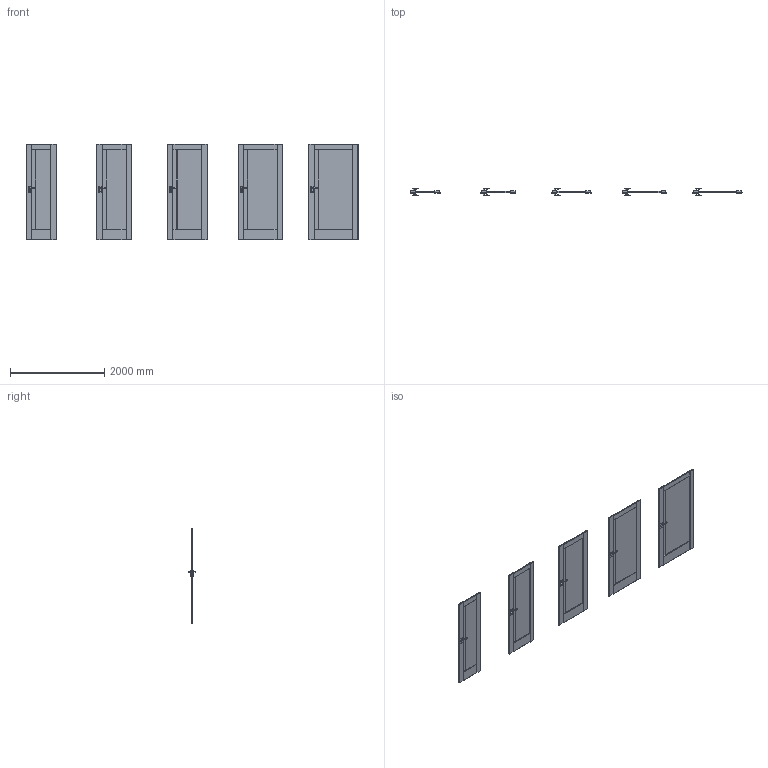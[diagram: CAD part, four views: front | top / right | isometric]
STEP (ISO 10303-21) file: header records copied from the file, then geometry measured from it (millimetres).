
FILE_DESCRIPTION(/* description */ (''),/* implementation_level */ '2;1');
FILE_NAME(/* name */ '049916_A_3-Skrzydło Verte Home model M.1_ polska norma _PN__ przylgowe.stp',/* time_stamp */ '2024-09-17T12:55:35+02:00',/* author */ (''),/* organization */ (''),/* preprocessor_version */ 'ST-DEVELOPER v16',/* originating_system */ 'SIEMENS PLM Software NX 11.0',/* authorisation */ '');
FILE_SCHEMA (('AUTOMOTIVE_DESIGN { 1 0 10303 214 3 1 1 1 }'));
Length unit declared in the file: millimetre
Products named in the file (1): msmoA6D4166Fy72r
Bounding box: 7044 x 153.13 x 2030.02 mm (x, y, z)
Volume: 181412103 mm3; surface area: 19251577.1 mm2
Topology: 25 solids, 25 shells, 1540 faces, 3970 edges, 2385 vertices
Faces by surface type: plane 745, cylinder 490, bspline 165, sphere 140
Entity records: 51605 total; most frequent: CARTESIAN_POINT 15186, ORIENTED_EDGE 7660, DIRECTION 7332, EDGE_CURVE 3830, AXIS2_PLACEMENT_3D 2496, VERTEX_POINT 2385, LINE 2340, VECTOR 2340
